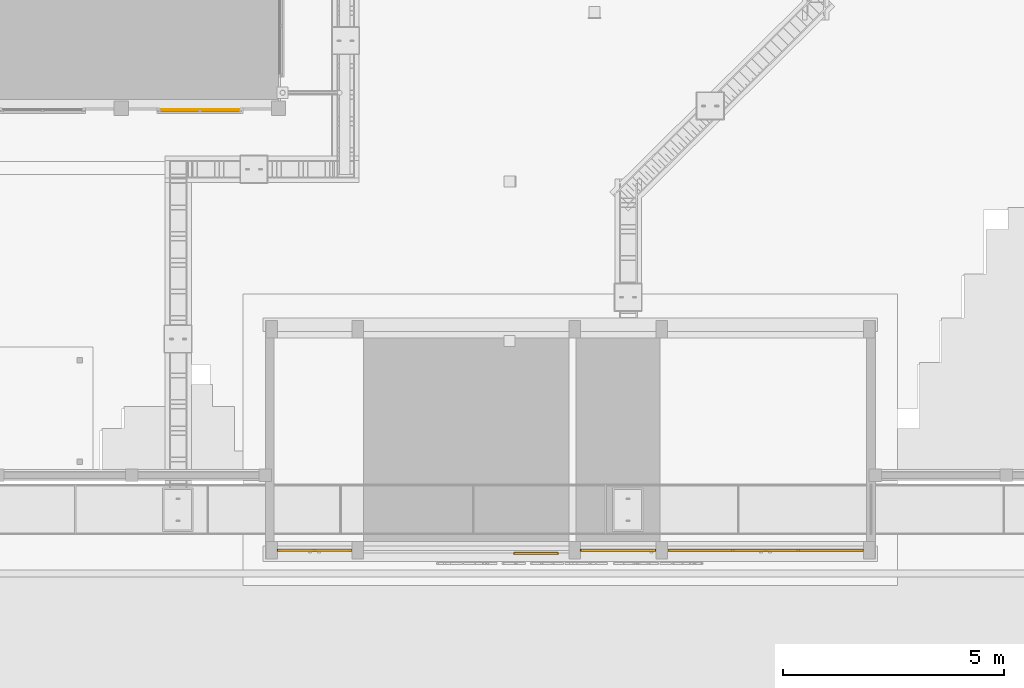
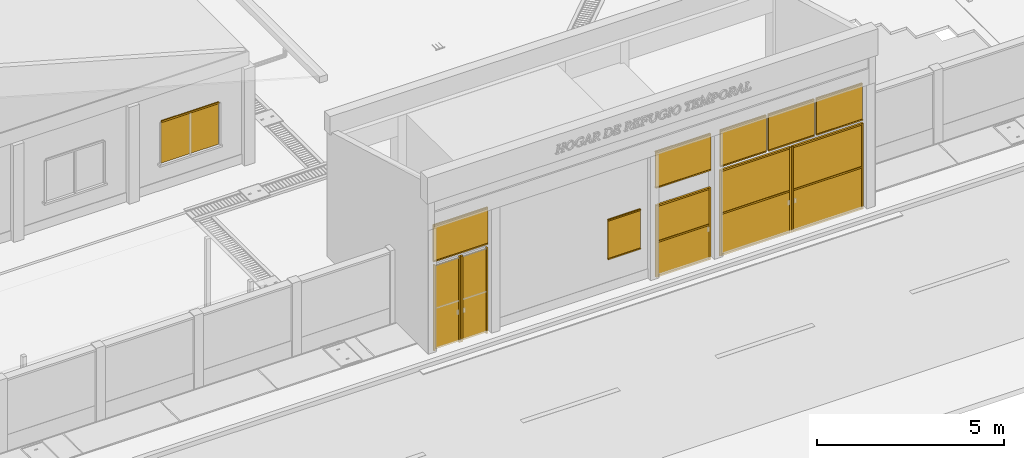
# One storey, part 37 of 151: 24 doors, 20 windows.
"""IFC2X3 building model written with IfcOpenShell, lengths in metres."""

import ifcopenshell
import ifcopenshell.guid

model = None  # the IFC model being written
_history = None  # IfcOwnerHistory: only IFC2X3 demands one
_inside = {}  # id of a spatial element -> (the spatial element, [elements in it])
_under = {}  # id of a project, library or spatial element -> (it, [spatial elements below it])
_declared = {}  # id of a project -> (the project, [libraries it declares])
_typed = {}  # id of a type object -> (the type object, [elements of that type])
_made_of = {}  # id of a material, layer set ... -> (it, [elements and type objects made of it])


def new_model(schema):
    """Start an empty IFC model of exactly this schema.

    Asked for "IFC4X3", IfcOpenShell would pick the latest addendum, in which some entities
    have other attributes; the version numbers below select the first issue.
    IFC2X3 requires an IfcOwnerHistory on every rooted entity: one is made here for all.
    """
    global model, _history
    if schema == "IFC4X3":
        model = ifcopenshell.file(schema_version=(4, 3, 0, 0))
    else:
        model = ifcopenshell.file(schema=schema)
    _inside.clear()
    _under.clear()
    _declared.clear()
    _typed.clear()
    _made_of.clear()
    _history = None
    if model.schema == "IFC2X3":
        org = make("IfcOrganization", Name="unknown")
        user = make(
            "IfcPersonAndOrganization",
            ThePerson=make("IfcPerson", FamilyName="unknown"),
            TheOrganization=org,
        )
        app = make(
            "IfcApplication",
            ApplicationDeveloper=org,
            Version="unknown",
            ApplicationFullName="unknown",
            ApplicationIdentifier="unknown",
        )
        _history = make(
            "IfcOwnerHistory",
            OwningUser=user,
            OwningApplication=app,
            ChangeAction="ADDED",
            CreationDate=0,
        )
    return model


def make(cls, **values):
    """One entity of the class cls with the attributes given. An attribute that is None is left unset."""
    return model.create_entity(
        cls, **{name: value for name, value in values.items() if value is not None}
    )


def rooted(cls, **values):
    """An entity with a GlobalId (a new one), such as an element, a storey or a relation."""
    return make(cls, GlobalId=ifcopenshell.guid.new(), OwnerHistory=_history, **values)


def si_unit(unit_type, name, prefix=None):
    """IfcSIUnit, for example si_unit("LENGTHUNIT", "METRE", prefix="MILLI")."""
    return make("IfcSIUnit", UnitType=unit_type, Prefix=prefix, Name=name)


def assignment(units):
    """IfcUnitAssignment: the units of a project."""
    return None if units is None else make("IfcUnitAssignment", Units=units)


def point(xyz):
    """IfcCartesianPoint."""
    return None if xyz is None else make("IfcCartesianPoint", Coordinates=xyz)


def direction(xyz):
    """IfcDirection."""
    return None if xyz is None else make("IfcDirection", DirectionRatios=xyz)


def frame(location, z_axis=None, x_axis=None):
    """IfcAxis2Placement3D, a coordinate frame: its origin and axes. An axis left out is left unset."""
    return make(
        "IfcAxis2Placement3D",
        Location=point(location),
        Axis=direction(z_axis),
        RefDirection=direction(x_axis),
    )


def origin():
    """The frame at (0, 0, 0) with its axes left unset."""
    return frame((0.0, 0.0, 0.0))


def origin_with_axes():
    """The frame at (0, 0, 0) with the z axis (0, 0, 1) and the x axis (1, 0, 0) written out."""
    return frame((0.0, 0.0, 0.0), z_axis=(0.0, 0.0, 1.0), x_axis=(1.0, 0.0, 0.0))


def place(relative_to, where):
    """IfcLocalPlacement: puts the frame where relative to a parent placement (None: the world)."""
    return make(
        "IfcLocalPlacement", PlacementRelTo=relative_to, RelativePlacement=where
    )


def context(
    kind, dimensions, precision=None, world=None, true_north=None, identifier=None
):
    """IfcGeometricRepresentationContext, for example the 3D "Model" context."""
    return make(
        "IfcGeometricRepresentationContext",
        ContextIdentifier=identifier,
        ContextType=kind,
        CoordinateSpaceDimension=dimensions,
        Precision=precision,
        WorldCoordinateSystem=world,
        TrueNorth=true_north,
    )


def subcontext(parent, identifier, kind, view, scale=None):
    """IfcGeometricRepresentationSubContext, for example "Body" below "Model"."""
    return make(
        "IfcGeometricRepresentationSubContext",
        ContextIdentifier=identifier,
        ContextType=kind,
        ParentContext=parent,
        TargetScale=scale,
        TargetView=view,
    )


def project(units=None, contexts=None):
    """IfcProject with its units and contexts."""
    return rooted(
        "IfcProject",
        Name="project",
        RepresentationContexts=contexts,
        UnitsInContext=assignment(units),
    )


def spatial(cls, under=None, at=None, **own):
    """A site, building, storey or space (cls), placed at a placement, below another one or the project."""
    s = rooted(cls, ObjectPlacement=at, **own)
    if under is not None:
        _under.setdefault(under.id(), (under, []))[1].append(s)
    return s


def faces_of(points, faces, orient=None, outer=None):
    """IfcFace entities. A face is a list of loops; a loop is a list of indices into points, from 0.

    orient and outer hold one flag for each loop. By default every Orientation is true, the
    first loop of a face is its IfcFaceOuterBound and the others are IfcFaceBound.
    """
    made = []
    for i, loops in enumerate(faces):
        bounds = []
        for j, loop in enumerate(loops):
            is_outer = j == 0 if outer is None else outer[i][j]
            bounds.append(
                make(
                    "IfcFaceOuterBound" if is_outer else "IfcFaceBound",
                    Bound=make("IfcPolyLoop", Polygon=[points[k] for k in loop]),
                    Orientation=True if orient is None else orient[i][j],
                )
            )
        made.append(make("IfcFace", Bounds=bounds))
    return made


def faceted_brep(points, faces, orient=None, outer=None, voids=None):
    """IfcFacetedBrep: a solid bounded by flat faces; with voids (closed shells), ...WithVoids."""
    shared = [point(p) for p in points]
    hull = make("IfcClosedShell", CfsFaces=faces_of(shared, faces, orient, outer))
    if voids is None:
        return make("IfcFacetedBrep", Outer=hull)
    return make(
        "IfcFacetedBrepWithVoids",
        Outer=hull,
        Voids=[
            make(cls, CfsFaces=faces_of(shared, fs, o, b)) for cls, fs, o, b in voids
        ],
    )


def shape(context_of_items, identifier, shape_type, items):
    """IfcShapeRepresentation: the items that make up one representation, for example the "Body"."""
    return make(
        "IfcShapeRepresentation",
        ContextOfItems=context_of_items,
        RepresentationIdentifier=identifier,
        RepresentationType=shape_type,
        Items=items,
    )


def made_of(thing, what):
    """Note that an element or type object is made of a material, layer set ...; save() writes the relation."""
    if what is not None:
        _made_of.setdefault(what.id(), (what, []))[1].append(thing)
    return thing


def element(
    cls,
    number,
    at=None,
    inside=None,
    cuts=None,
    type_object=None,
    material=None,
    context=None,
    identifier="Body",
    shape_type=None,
    held_by="IfcProductDefinitionShape",
    body=None,
    shapes=None,
    **own,
):
    """One element of the class cls, such as IfcWall. Its Tag is "e" and its number.

    at: its placement. inside: the storey or other place that contains it. cuts: it is an
    opening in that element (IfcRelVoidsElement). A single representation is given by context,
    identifier, shape_type and body (its items); several are given by shapes. held_by: the class
    of the entity that holds the representations. save() writes the other relations.
    """
    e = rooted(cls, Tag="e%d" % number, ObjectPlacement=at, **own)
    if body is not None:
        shapes = [shape(context, identifier, shape_type, body)]
    if shapes is not None:
        e.Representation = make(held_by, Representations=shapes)
    if inside is not None:
        _inside.setdefault(inside.id(), (inside, []))[1].append(e)
    if cuts is not None:
        rooted(
            "IfcRelVoidsElement", RelatingBuildingElement=cuts, RelatedOpeningElement=e
        )
    if type_object is not None:
        _typed.setdefault(type_object.id(), (type_object, []))[1].append(e)
    return made_of(e, material)


def aggregate(whole, parts):
    """IfcRelAggregates: a whole, such as a stair, and the parts it consists of."""
    return rooted("IfcRelAggregates", RelatingObject=whole, RelatedObjects=parts)


def save(model, path):
    """Write the relations noted so far, then the file.

    IfcRelAggregates (storeys below a building ...), IfcRelContainedInSpatialStructure (elements
    in a storey), IfcRelDefinesByType, IfcRelAssociatesMaterial and IfcRelDeclares: one each for
    every whole, place, type object, material and project.
    """
    for whole, parts in _under.values():
        aggregate(whole, parts)
    for where, things in _inside.values():
        rooted(
            "IfcRelContainedInSpatialStructure",
            RelatedElements=things,
            RelatingStructure=where,
        )
    for kind, things in _typed.values():
        rooted("IfcRelDefinesByType", RelatedObjects=things, RelatingType=kind)
    for what, things in _made_of.values():
        rooted("IfcRelAssociatesMaterial", RelatedObjects=things, RelatingMaterial=what)
    for by, libraries in _declared.values():
        rooted("IfcRelDeclares", RelatingContext=by, RelatedDefinitions=libraries)
    model.write(path)


model = new_model("IFC2X3")

# Units and contexts
model_context = context("Model", 3, precision=1e-05, world=origin_with_axes())
body_context = subcontext(model_context, "Body", "Model", "MODEL_VIEW")
ifc_project = project(units=[si_unit("LENGTHUNIT", "METRE"), si_unit("AREAUNIT", "SQUARE_METRE"), si_unit("VOLUMEUNIT", "CUBIC_METRE"), si_unit("PLANEANGLEUNIT", "RADIAN")], contexts=[model_context])

# Site, building, storey
site_placement = place(None, origin_with_axes())
site = spatial("IfcSite", under=ifc_project, at=site_placement, Name="Predio Los Mangos - Morales, San Martín", CompositionType="ELEMENT")
building_placement = place(site_placement, origin())
building = spatial("IfcBuilding", under=site, at=building_placement, Name="Hogar de Refugio Temporal", CompositionType="ELEMENT")
storey_placement = place(building_placement, origin())
storey = spatial("IfcBuildingStorey", under=building, at=storey_placement, Name="NIVEL 1 (NPT +0.00)", CompositionType="ELEMENT", Elevation=0.0)

# Windows
window_1_placement = place(storey_placement, origin())
element("IfcWindow", 1, at=window_1_placement, inside=storey, Name="E-01_vg4_vid", ObjectType="Ventana", context=body_context, shape_type="Brep", body=[
    faceted_brep([(28.93, 26.26, 1.05), (28.93, 26.28, 1.05), (30.71, 26.28, 1.05), (30.71, 26.26, 1.05), (28.93, 26.26, 2.4), (30.71, 26.26, 2.4), (30.71, 26.28, 2.4), (28.93, 26.28, 2.4)], [[[0, 1, 2, 3]], [[4, 5, 6, 7]], [[0, 3, 5, 4]], [[3, 2, 6, 5]], [[2, 1, 7, 6]], [[1, 0, 4, 7]]]),
])
window_2_placement = place(storey_placement, origin())
element("IfcWindow", 2, at=window_2_placement, inside=storey, Name="E-01_vg4_m", ObjectType="Ventana", context=body_context, shape_type="Brep", body=[
    faceted_brep([(28.93, 26.22, 2.4), (28.93, 26.26, 2.4), (30.71, 26.26, 2.4), (30.71, 26.22, 2.4), (28.93, 26.22, 2.45), (30.71, 26.22, 2.45), (30.71, 26.26, 2.45), (28.93, 26.26, 2.45)], [[[0, 1, 2, 3]], [[4, 5, 6, 7]], [[0, 3, 5, 4]], [[3, 2, 6, 5]], [[2, 1, 7, 6]], [[1, 0, 4, 7]]]),
])

# Doors
door_1_placement = place(storey_placement, origin())
element("IfcDoor", 3, at=door_1_placement, inside=storey, Name="oe01_porton_peatonal_plancha", ObjectType="Puerta / portón", context=body_context, shape_type="Brep", body=[
    faceted_brep([(31.621, 16.285, 0.09), (31.621, 16.315, 0.09), (32.364, 16.315, 0.09), (32.364, 16.285, 0.09), (31.621, 16.285, 2.81), (32.364, 16.285, 2.81), (32.364, 16.315, 2.81), (31.621, 16.315, 2.81)], [[[0, 1, 2, 3]], [[4, 5, 6, 7]], [[0, 3, 5, 4]], [[3, 2, 6, 5]], [[2, 1, 7, 6]], [[1, 0, 4, 7]]]),
])
door_2_placement = place(storey_placement, origin())
element("IfcDoor", 4, at=door_2_placement, inside=storey, Name="oe01_porton_peatonal_m", ObjectType="Puerta / portón", context=body_context, shape_type="Brep", body=[
    faceted_brep([(31.581, 16.27, 0.05), (31.581, 16.33, 0.05), (31.631, 16.33, 0.05), (31.631, 16.27, 0.05), (31.581, 16.27, 2.85), (31.631, 16.27, 2.85), (31.631, 16.33, 2.85), (31.581, 16.33, 2.85)], [[[0, 1, 2, 3]], [[4, 5, 6, 7]], [[0, 3, 5, 4]], [[3, 2, 6, 5]], [[2, 1, 7, 6]], [[1, 0, 4, 7]]]),
])
door_3_placement = place(storey_placement, origin())
element("IfcDoor", 5, at=door_3_placement, inside=storey, Name="oe01_porton_peatonal_m", ObjectType="Puerta / portón", context=body_context, shape_type="Brep", body=[
    faceted_brep([(32.354, 16.27, 0.05), (32.354, 16.33, 0.05), (32.404, 16.33, 0.05), (32.404, 16.27, 0.05), (32.354, 16.27, 2.85), (32.404, 16.27, 2.85), (32.404, 16.33, 2.85), (32.354, 16.33, 2.85)], [[[0, 1, 2, 3]], [[4, 5, 6, 7]], [[0, 3, 5, 4]], [[3, 2, 6, 5]], [[2, 1, 7, 6]], [[1, 0, 4, 7]]]),
])
door_4_placement = place(storey_placement, origin())
element("IfcDoor", 6, at=door_4_placement, inside=storey, Name="oe01_porton_peatonal_plancha", ObjectType="Puerta / portón", context=body_context, shape_type="Brep", body=[
    faceted_brep([(32.464, 16.285, 0.09), (32.464, 16.315, 0.09), (33.2071, 16.315, 0.09), (33.2071, 16.285, 0.09), (32.464, 16.285, 2.81), (33.2071, 16.285, 2.81), (33.2071, 16.315, 2.81), (32.464, 16.315, 2.81)], [[[0, 1, 2, 3]], [[4, 5, 6, 7]], [[0, 3, 5, 4]], [[3, 2, 6, 5]], [[2, 1, 7, 6]], [[1, 0, 4, 7]]]),
])
door_5_placement = place(storey_placement, origin())
element("IfcDoor", 7, at=door_5_placement, inside=storey, Name="oe01_porton_peatonal_m", ObjectType="Puerta / portón", context=body_context, shape_type="Brep", body=[
    faceted_brep([(32.424, 16.27, 0.05), (32.424, 16.33, 0.05), (32.474, 16.33, 0.05), (32.474, 16.27, 0.05), (32.424, 16.27, 2.85), (32.474, 16.27, 2.85), (32.474, 16.33, 2.85), (32.424, 16.33, 2.85)], [[[0, 1, 2, 3]], [[4, 5, 6, 7]], [[0, 3, 5, 4]], [[3, 2, 6, 5]], [[2, 1, 7, 6]], [[1, 0, 4, 7]]]),
])
door_6_placement = place(storey_placement, origin())
element("IfcDoor", 8, at=door_6_placement, inside=storey, Name="oe01_porton_peatonal_m", ObjectType="Puerta / portón", context=body_context, shape_type="Brep", body=[
    faceted_brep([(33.1971, 16.27, 0.05), (33.1971, 16.33, 0.05), (33.2471, 16.33, 0.05), (33.2471, 16.27, 0.05), (33.1971, 16.27, 2.85), (33.2471, 16.27, 2.85), (33.2471, 16.33, 2.85), (33.1971, 16.33, 2.85)], [[[0, 1, 2, 3]], [[4, 5, 6, 7]], [[0, 3, 5, 4]], [[3, 2, 6, 5]], [[2, 1, 7, 6]], [[1, 0, 4, 7]]]),
])

# Windows
window_3_placement = place(storey_placement, origin())
element("IfcWindow", 9, at=window_3_placement, inside=storey, Name="oe01_celosia1", ObjectType="Ventana / paño metálico", context=body_context, shape_type="Brep", body=[
    faceted_brep([(31.571, 16.28, 2.95), (31.571, 16.32, 2.95), (33.2571, 16.32, 2.95), (33.2571, 16.28, 2.95), (31.571, 16.28, 4.15), (33.2571, 16.28, 4.15), (33.2571, 16.32, 4.15), (31.571, 16.32, 4.15)], [[[0, 1, 2, 3]], [[4, 5, 6, 7]], [[0, 3, 5, 4]], [[3, 2, 6, 5]], [[2, 1, 7, 6]], [[1, 0, 4, 7]]]),
])
window_4_placement = place(storey_placement, origin())
element("IfcWindow", 10, at=window_4_placement, inside=storey, Name="oe01_celosia1_marco", ObjectType="Ventana / paño metálico", context=body_context, shape_type="Brep", body=[
    faceted_brep([(31.571, 16.27, 2.95), (31.571, 16.33, 2.95), (33.2571, 16.33, 2.95), (33.2571, 16.27, 2.95), (31.571, 16.27, 2.99), (33.2571, 16.27, 2.99), (33.2571, 16.33, 2.99), (31.571, 16.33, 2.99)], [[[0, 1, 2, 3]], [[4, 5, 6, 7]], [[0, 3, 5, 4]], [[3, 2, 6, 5]], [[2, 1, 7, 6]], [[1, 0, 4, 7]]]),
])
window_5_placement = place(storey_placement, origin())
element("IfcWindow", 11, at=window_5_placement, inside=storey, Name="oe01_celosia1_marco", ObjectType="Ventana / paño metálico", context=body_context, shape_type="Brep", body=[
    faceted_brep([(31.571, 16.27, 4.11), (31.571, 16.33, 4.11), (33.2571, 16.33, 4.11), (33.2571, 16.27, 4.11), (31.571, 16.27, 4.15), (33.2571, 16.27, 4.15), (33.2571, 16.33, 4.15), (31.571, 16.33, 4.15)], [[[0, 1, 2, 3]], [[4, 5, 6, 7]], [[0, 3, 5, 4]], [[3, 2, 6, 5]], [[2, 1, 7, 6]], [[1, 0, 4, 7]]]),
])
window_6_placement = place(storey_placement, origin())
element("IfcWindow", 12, at=window_6_placement, inside=storey, Name="oe01_ventana", ObjectType="Ventana / paño metálico", context=body_context, shape_type="Brep", body=[
    faceted_brep([(36.9204, 16.21, 1.2), (36.9204, 16.25, 1.2), (37.924, 16.25, 1.2), (37.924, 16.21, 1.2), (36.9204, 16.21, 2.5), (37.924, 16.21, 2.5), (37.924, 16.25, 2.5), (36.9204, 16.25, 2.5)], [[[0, 1, 2, 3]], [[4, 5, 6, 7]], [[0, 3, 5, 4]], [[3, 2, 6, 5]], [[2, 1, 7, 6]], [[1, 0, 4, 7]]]),
])
window_7_placement = place(storey_placement, origin())
element("IfcWindow", 13, at=window_7_placement, inside=storey, Name="oe01_ventana_marco", ObjectType="Ventana / paño metálico", context=body_context, shape_type="Brep", body=[
    faceted_brep([(36.9204, 16.2, 1.2), (36.9204, 16.26, 1.2), (37.924, 16.26, 1.2), (37.924, 16.2, 1.2), (36.9204, 16.2, 1.24), (37.924, 16.2, 1.24), (37.924, 16.26, 1.24), (36.9204, 16.26, 1.24)], [[[0, 1, 2, 3]], [[4, 5, 6, 7]], [[0, 3, 5, 4]], [[3, 2, 6, 5]], [[2, 1, 7, 6]], [[1, 0, 4, 7]]]),
])
window_8_placement = place(storey_placement, origin())
element("IfcWindow", 14, at=window_8_placement, inside=storey, Name="oe01_ventana_marco", ObjectType="Ventana / paño metálico", context=body_context, shape_type="Brep", body=[
    faceted_brep([(36.9204, 16.2, 2.46), (36.9204, 16.26, 2.46), (37.924, 16.26, 2.46), (37.924, 16.2, 2.46), (36.9204, 16.2, 2.5), (37.924, 16.2, 2.5), (37.924, 16.26, 2.5), (36.9204, 16.26, 2.5)], [[[0, 1, 2, 3]], [[4, 5, 6, 7]], [[0, 3, 5, 4]], [[3, 2, 6, 5]], [[2, 1, 7, 6]], [[1, 0, 4, 7]]]),
])

# Doors
door_7_placement = place(storey_placement, origin())
element("IfcDoor", 15, at=door_7_placement, inside=storey, Name="oe01_puerta_plancha", ObjectType="Puerta / portón", context=body_context, shape_type="Brep", body=[
    faceted_brep([(38.4758, 16.285, 0.09), (38.4758, 16.315, 0.09), (40.082, 16.315, 0.09), (40.082, 16.285, 0.09), (38.4758, 16.285, 2.36), (40.082, 16.285, 2.36), (40.082, 16.315, 2.36), (38.4758, 16.315, 2.36)], [[[0, 1, 2, 3]], [[4, 5, 6, 7]], [[0, 3, 5, 4]], [[3, 2, 6, 5]], [[2, 1, 7, 6]], [[1, 0, 4, 7]]]),
])
door_8_placement = place(storey_placement, origin())
element("IfcDoor", 16, at=door_8_placement, inside=storey, Name="oe01_puerta_m", ObjectType="Puerta / portón", context=body_context, shape_type="Brep", body=[
    faceted_brep([(38.4358, 16.27, 0.05), (38.4358, 16.33, 0.05), (40.122, 16.33, 0.05), (40.122, 16.27, 0.05), (38.4358, 16.27, 0.1), (40.122, 16.27, 0.1), (40.122, 16.33, 0.1), (38.4358, 16.33, 0.1)], [[[0, 1, 2, 3]], [[4, 5, 6, 7]], [[0, 3, 5, 4]], [[3, 2, 6, 5]], [[2, 1, 7, 6]], [[1, 0, 4, 7]]]),
])
door_9_placement = place(storey_placement, origin())
element("IfcDoor", 17, at=door_9_placement, inside=storey, Name="oe01_puerta_m", ObjectType="Puerta / portón", context=body_context, shape_type="Brep", body=[
    faceted_brep([(38.4358, 16.27, 2.35), (38.4358, 16.33, 2.35), (40.122, 16.33, 2.35), (40.122, 16.27, 2.35), (38.4358, 16.27, 2.4), (40.122, 16.27, 2.4), (40.122, 16.33, 2.4), (38.4358, 16.33, 2.4)], [[[0, 1, 2, 3]], [[4, 5, 6, 7]], [[0, 3, 5, 4]], [[3, 2, 6, 5]], [[2, 1, 7, 6]], [[1, 0, 4, 7]]]),
])
door_10_placement = place(storey_placement, origin())
element("IfcDoor", 18, at=door_10_placement, inside=storey, Name="oe01_puerta_m", ObjectType="Puerta / portón", context=body_context, shape_type="Brep", body=[
    faceted_brep([(38.4358, 16.27, 0.05), (38.4358, 16.33, 0.05), (38.4858, 16.33, 0.05), (38.4858, 16.27, 0.05), (38.4358, 16.27, 2.4), (38.4858, 16.27, 2.4), (38.4858, 16.33, 2.4), (38.4358, 16.33, 2.4)], [[[0, 1, 2, 3]], [[4, 5, 6, 7]], [[0, 3, 5, 4]], [[3, 2, 6, 5]], [[2, 1, 7, 6]], [[1, 0, 4, 7]]]),
])
door_11_placement = place(storey_placement, origin())
element("IfcDoor", 19, at=door_11_placement, inside=storey, Name="oe01_puerta_m", ObjectType="Puerta / portón", context=body_context, shape_type="Brep", body=[
    faceted_brep([(40.072, 16.27, 0.05), (40.072, 16.33, 0.05), (40.122, 16.33, 0.05), (40.122, 16.27, 0.05), (40.072, 16.27, 2.4), (40.122, 16.27, 2.4), (40.122, 16.33, 2.4), (40.072, 16.33, 2.4)], [[[0, 1, 2, 3]], [[4, 5, 6, 7]], [[0, 3, 5, 4]], [[3, 2, 6, 5]], [[2, 1, 7, 6]], [[1, 0, 4, 7]]]),
])
door_12_placement = place(storey_placement, origin())
element("IfcDoor", 20, at=door_12_placement, inside=storey, Name="oe01_puerta_m", ObjectType="Puerta / portón", context=body_context, shape_type="Brep", body=[
    faceted_brep([(38.4358, 16.27, 1.175), (38.4358, 16.33, 1.175), (40.122, 16.33, 1.175), (40.122, 16.27, 1.175), (38.4358, 16.27, 1.225), (40.122, 16.27, 1.225), (40.122, 16.33, 1.225), (38.4358, 16.33, 1.225)], [[[0, 1, 2, 3]], [[4, 5, 6, 7]], [[0, 3, 5, 4]], [[3, 2, 6, 5]], [[2, 1, 7, 6]], [[1, 0, 4, 7]]]),
])

# Windows
window_9_placement = place(storey_placement, origin())
element("IfcWindow", 21, at=window_9_placement, inside=storey, Name="oe01_celosia3", ObjectType="Ventana / paño metálico", context=body_context, shape_type="Brep", body=[
    faceted_brep([(38.4258, 16.28, 2.95), (38.4258, 16.32, 2.95), (40.132, 16.32, 2.95), (40.132, 16.28, 2.95), (38.4258, 16.28, 4.15), (40.132, 16.28, 4.15), (40.132, 16.32, 4.15), (38.4258, 16.32, 4.15)], [[[0, 1, 2, 3]], [[4, 5, 6, 7]], [[0, 3, 5, 4]], [[3, 2, 6, 5]], [[2, 1, 7, 6]], [[1, 0, 4, 7]]]),
])
window_10_placement = place(storey_placement, origin())
element("IfcWindow", 22, at=window_10_placement, inside=storey, Name="oe01_celosia3_marco", ObjectType="Ventana / paño metálico", context=body_context, shape_type="Brep", body=[
    faceted_brep([(38.4258, 16.27, 2.95), (38.4258, 16.33, 2.95), (40.132, 16.33, 2.95), (40.132, 16.27, 2.95), (38.4258, 16.27, 2.99), (40.132, 16.27, 2.99), (40.132, 16.33, 2.99), (38.4258, 16.33, 2.99)], [[[0, 1, 2, 3]], [[4, 5, 6, 7]], [[0, 3, 5, 4]], [[3, 2, 6, 5]], [[2, 1, 7, 6]], [[1, 0, 4, 7]]]),
])
window_11_placement = place(storey_placement, origin())
element("IfcWindow", 23, at=window_11_placement, inside=storey, Name="oe01_celosia3_marco", ObjectType="Ventana / paño metálico", context=body_context, shape_type="Brep", body=[
    faceted_brep([(38.4258, 16.27, 4.11), (38.4258, 16.33, 4.11), (40.132, 16.33, 4.11), (40.132, 16.27, 4.11), (38.4258, 16.27, 4.15), (40.132, 16.27, 4.15), (40.132, 16.33, 4.15), (38.4258, 16.33, 4.15)], [[[0, 1, 2, 3]], [[4, 5, 6, 7]], [[0, 3, 5, 4]], [[3, 2, 6, 5]], [[2, 1, 7, 6]], [[1, 0, 4, 7]]]),
])

# Doors
door_13_placement = place(storey_placement, origin())
element("IfcDoor", 24, at=door_13_placement, inside=storey, Name="oe01_porton_vehicular_plancha", ObjectType="Puerta / portón", context=body_context, shape_type="Brep", body=[
    faceted_brep([(40.4429, 16.285, 0.09), (40.4429, 16.315, 0.09), (42.566, 16.315, 0.09), (42.566, 16.285, 0.09), (40.4429, 16.285, 2.81), (42.566, 16.285, 2.81), (42.566, 16.315, 2.81), (40.4429, 16.315, 2.81)], [[[0, 1, 2, 3]], [[4, 5, 6, 7]], [[0, 3, 5, 4]], [[3, 2, 6, 5]], [[2, 1, 7, 6]], [[1, 0, 4, 7]]]),
])
door_14_placement = place(storey_placement, origin())
element("IfcDoor", 25, at=door_14_placement, inside=storey, Name="oe01_porton_vehicular_m", ObjectType="Puerta / portón", context=body_context, shape_type="Brep", body=[
    faceted_brep([(40.4029, 16.27, 0.05), (40.4029, 16.33, 0.05), (42.606, 16.33, 0.05), (42.606, 16.27, 0.05), (40.4029, 16.27, 0.1), (42.606, 16.27, 0.1), (42.606, 16.33, 0.1), (40.4029, 16.33, 0.1)], [[[0, 1, 2, 3]], [[4, 5, 6, 7]], [[0, 3, 5, 4]], [[3, 2, 6, 5]], [[2, 1, 7, 6]], [[1, 0, 4, 7]]]),
])
door_15_placement = place(storey_placement, origin())
element("IfcDoor", 26, at=door_15_placement, inside=storey, Name="oe01_porton_vehicular_m", ObjectType="Puerta / portón", context=body_context, shape_type="Brep", body=[
    faceted_brep([(40.4029, 16.27, 2.8), (40.4029, 16.33, 2.8), (42.606, 16.33, 2.8), (42.606, 16.27, 2.8), (40.4029, 16.27, 2.85), (42.606, 16.27, 2.85), (42.606, 16.33, 2.85), (40.4029, 16.33, 2.85)], [[[0, 1, 2, 3]], [[4, 5, 6, 7]], [[0, 3, 5, 4]], [[3, 2, 6, 5]], [[2, 1, 7, 6]], [[1, 0, 4, 7]]]),
])
door_16_placement = place(storey_placement, origin())
element("IfcDoor", 27, at=door_16_placement, inside=storey, Name="oe01_porton_vehicular_m", ObjectType="Puerta / portón", context=body_context, shape_type="Brep", body=[
    faceted_brep([(40.4029, 16.27, 0.05), (40.4029, 16.33, 0.05), (40.4529, 16.33, 0.05), (40.4529, 16.27, 0.05), (40.4029, 16.27, 2.85), (40.4529, 16.27, 2.85), (40.4529, 16.33, 2.85), (40.4029, 16.33, 2.85)], [[[0, 1, 2, 3]], [[4, 5, 6, 7]], [[0, 3, 5, 4]], [[3, 2, 6, 5]], [[2, 1, 7, 6]], [[1, 0, 4, 7]]]),
])
door_17_placement = place(storey_placement, origin())
element("IfcDoor", 28, at=door_17_placement, inside=storey, Name="oe01_porton_vehicular_m", ObjectType="Puerta / portón", context=body_context, shape_type="Brep", body=[
    faceted_brep([(42.556, 16.27, 0.05), (42.556, 16.33, 0.05), (42.606, 16.33, 0.05), (42.606, 16.27, 0.05), (42.556, 16.27, 2.85), (42.606, 16.27, 2.85), (42.606, 16.33, 2.85), (42.556, 16.33, 2.85)], [[[0, 1, 2, 3]], [[4, 5, 6, 7]], [[0, 3, 5, 4]], [[3, 2, 6, 5]], [[2, 1, 7, 6]], [[1, 0, 4, 7]]]),
])
door_18_placement = place(storey_placement, origin())
element("IfcDoor", 29, at=door_18_placement, inside=storey, Name="oe01_porton_vehicular_m", ObjectType="Puerta / portón", context=body_context, shape_type="Brep", body=[
    faceted_brep([(40.4029, 16.27, 1.4), (40.4029, 16.33, 1.4), (42.606, 16.33, 1.4), (42.606, 16.27, 1.4), (40.4029, 16.27, 1.45), (42.606, 16.27, 1.45), (42.606, 16.33, 1.45), (40.4029, 16.33, 1.45)], [[[0, 1, 2, 3]], [[4, 5, 6, 7]], [[0, 3, 5, 4]], [[3, 2, 6, 5]], [[2, 1, 7, 6]], [[1, 0, 4, 7]]]),
])
door_19_placement = place(storey_placement, origin())
element("IfcDoor", 30, at=door_19_placement, inside=storey, Name="oe01_porton_vehicular_plancha", ObjectType="Puerta / portón", context=body_context, shape_type="Brep", body=[
    faceted_brep([(42.666, 16.285, 0.09), (42.666, 16.315, 0.09), (44.7891, 16.315, 0.09), (44.7891, 16.285, 0.09), (42.666, 16.285, 2.81), (44.7891, 16.285, 2.81), (44.7891, 16.315, 2.81), (42.666, 16.315, 2.81)], [[[0, 1, 2, 3]], [[4, 5, 6, 7]], [[0, 3, 5, 4]], [[3, 2, 6, 5]], [[2, 1, 7, 6]], [[1, 0, 4, 7]]]),
])
door_20_placement = place(storey_placement, origin())
element("IfcDoor", 31, at=door_20_placement, inside=storey, Name="oe01_porton_vehicular_m", ObjectType="Puerta / portón", context=body_context, shape_type="Brep", body=[
    faceted_brep([(42.626, 16.27, 0.05), (42.626, 16.33, 0.05), (44.8291, 16.33, 0.05), (44.8291, 16.27, 0.05), (42.626, 16.27, 0.1), (44.8291, 16.27, 0.1), (44.8291, 16.33, 0.1), (42.626, 16.33, 0.1)], [[[0, 1, 2, 3]], [[4, 5, 6, 7]], [[0, 3, 5, 4]], [[3, 2, 6, 5]], [[2, 1, 7, 6]], [[1, 0, 4, 7]]]),
])
door_21_placement = place(storey_placement, origin())
element("IfcDoor", 32, at=door_21_placement, inside=storey, Name="oe01_porton_vehicular_m", ObjectType="Puerta / portón", context=body_context, shape_type="Brep", body=[
    faceted_brep([(42.626, 16.27, 2.8), (42.626, 16.33, 2.8), (44.8291, 16.33, 2.8), (44.8291, 16.27, 2.8), (42.626, 16.27, 2.85), (44.8291, 16.27, 2.85), (44.8291, 16.33, 2.85), (42.626, 16.33, 2.85)], [[[0, 1, 2, 3]], [[4, 5, 6, 7]], [[0, 3, 5, 4]], [[3, 2, 6, 5]], [[2, 1, 7, 6]], [[1, 0, 4, 7]]]),
])
door_22_placement = place(storey_placement, origin())
element("IfcDoor", 33, at=door_22_placement, inside=storey, Name="oe01_porton_vehicular_m", ObjectType="Puerta / portón", context=body_context, shape_type="Brep", body=[
    faceted_brep([(42.626, 16.27, 0.05), (42.626, 16.33, 0.05), (42.676, 16.33, 0.05), (42.676, 16.27, 0.05), (42.626, 16.27, 2.85), (42.676, 16.27, 2.85), (42.676, 16.33, 2.85), (42.626, 16.33, 2.85)], [[[0, 1, 2, 3]], [[4, 5, 6, 7]], [[0, 3, 5, 4]], [[3, 2, 6, 5]], [[2, 1, 7, 6]], [[1, 0, 4, 7]]]),
])
door_23_placement = place(storey_placement, origin())
element("IfcDoor", 34, at=door_23_placement, inside=storey, Name="oe01_porton_vehicular_m", ObjectType="Puerta / portón", context=body_context, shape_type="Brep", body=[
    faceted_brep([(44.7791, 16.27, 0.05), (44.7791, 16.33, 0.05), (44.8291, 16.33, 0.05), (44.8291, 16.27, 0.05), (44.7791, 16.27, 2.85), (44.8291, 16.27, 2.85), (44.8291, 16.33, 2.85), (44.7791, 16.33, 2.85)], [[[0, 1, 2, 3]], [[4, 5, 6, 7]], [[0, 3, 5, 4]], [[3, 2, 6, 5]], [[2, 1, 7, 6]], [[1, 0, 4, 7]]]),
])
door_24_placement = place(storey_placement, origin())
element("IfcDoor", 35, at=door_24_placement, inside=storey, Name="oe01_porton_vehicular_m", ObjectType="Puerta / portón", context=body_context, shape_type="Brep", body=[
    faceted_brep([(42.626, 16.27, 1.4), (42.626, 16.33, 1.4), (44.8291, 16.33, 1.4), (44.8291, 16.27, 1.4), (42.626, 16.27, 1.45), (44.8291, 16.27, 1.45), (44.8291, 16.33, 1.45), (42.626, 16.33, 1.45)], [[[0, 1, 2, 3]], [[4, 5, 6, 7]], [[0, 3, 5, 4]], [[3, 2, 6, 5]], [[2, 1, 7, 6]], [[1, 0, 4, 7]]]),
])

# Windows
window_12_placement = place(storey_placement, origin())
element("IfcWindow", 36, at=window_12_placement, inside=storey, Name="oe01_celosia4", ObjectType="Ventana / paño metálico", context=body_context, shape_type="Brep", body=[
    faceted_brep([(40.4229, 16.28, 2.95), (40.4229, 16.32, 2.95), (41.845, 16.32, 2.95), (41.845, 16.28, 2.95), (40.4229, 16.28, 4.15), (41.845, 16.28, 4.15), (41.845, 16.32, 4.15), (40.4229, 16.32, 4.15)], [[[0, 1, 2, 3]], [[4, 5, 6, 7]], [[0, 3, 5, 4]], [[3, 2, 6, 5]], [[2, 1, 7, 6]], [[1, 0, 4, 7]]]),
])
window_13_placement = place(storey_placement, origin())
element("IfcWindow", 37, at=window_13_placement, inside=storey, Name="oe01_celosia4_marco", ObjectType="Ventana / paño metálico", context=body_context, shape_type="Brep", body=[
    faceted_brep([(40.4229, 16.27, 2.95), (40.4229, 16.33, 2.95), (41.845, 16.33, 2.95), (41.845, 16.27, 2.95), (40.4229, 16.27, 2.99), (41.845, 16.27, 2.99), (41.845, 16.33, 2.99), (40.4229, 16.33, 2.99)], [[[0, 1, 2, 3]], [[4, 5, 6, 7]], [[0, 3, 5, 4]], [[3, 2, 6, 5]], [[2, 1, 7, 6]], [[1, 0, 4, 7]]]),
])
window_14_placement = place(storey_placement, origin())
element("IfcWindow", 38, at=window_14_placement, inside=storey, Name="oe01_celosia4_marco", ObjectType="Ventana / paño metálico", context=body_context, shape_type="Brep", body=[
    faceted_brep([(40.4229, 16.27, 4.11), (40.4229, 16.33, 4.11), (41.845, 16.33, 4.11), (41.845, 16.27, 4.11), (40.4229, 16.27, 4.15), (41.845, 16.27, 4.15), (41.845, 16.33, 4.15), (40.4229, 16.33, 4.15)], [[[0, 1, 2, 3]], [[4, 5, 6, 7]], [[0, 3, 5, 4]], [[3, 2, 6, 5]], [[2, 1, 7, 6]], [[1, 0, 4, 7]]]),
])
window_15_placement = place(storey_placement, origin())
element("IfcWindow", 39, at=window_15_placement, inside=storey, Name="oe01_celosia4", ObjectType="Ventana / paño metálico", context=body_context, shape_type="Brep", body=[
    faceted_brep([(41.905, 16.28, 2.95), (41.905, 16.32, 2.95), (43.327, 16.32, 2.95), (43.327, 16.28, 2.95), (41.905, 16.28, 4.15), (43.327, 16.28, 4.15), (43.327, 16.32, 4.15), (41.905, 16.32, 4.15)], [[[0, 1, 2, 3]], [[4, 5, 6, 7]], [[0, 3, 5, 4]], [[3, 2, 6, 5]], [[2, 1, 7, 6]], [[1, 0, 4, 7]]]),
])
window_16_placement = place(storey_placement, origin())
element("IfcWindow", 40, at=window_16_placement, inside=storey, Name="oe01_celosia4_marco", ObjectType="Ventana / paño metálico", context=body_context, shape_type="Brep", body=[
    faceted_brep([(41.905, 16.27, 2.95), (41.905, 16.33, 2.95), (43.327, 16.33, 2.95), (43.327, 16.27, 2.95), (41.905, 16.27, 2.99), (43.327, 16.27, 2.99), (43.327, 16.33, 2.99), (41.905, 16.33, 2.99)], [[[0, 1, 2, 3]], [[4, 5, 6, 7]], [[0, 3, 5, 4]], [[3, 2, 6, 5]], [[2, 1, 7, 6]], [[1, 0, 4, 7]]]),
])
window_17_placement = place(storey_placement, origin())
element("IfcWindow", 41, at=window_17_placement, inside=storey, Name="oe01_celosia4_marco", ObjectType="Ventana / paño metálico", context=body_context, shape_type="Brep", body=[
    faceted_brep([(41.905, 16.27, 4.11), (41.905, 16.33, 4.11), (43.327, 16.33, 4.11), (43.327, 16.27, 4.11), (41.905, 16.27, 4.15), (43.327, 16.27, 4.15), (43.327, 16.33, 4.15), (41.905, 16.33, 4.15)], [[[0, 1, 2, 3]], [[4, 5, 6, 7]], [[0, 3, 5, 4]], [[3, 2, 6, 5]], [[2, 1, 7, 6]], [[1, 0, 4, 7]]]),
])
window_18_placement = place(storey_placement, origin())
element("IfcWindow", 42, at=window_18_placement, inside=storey, Name="oe01_celosia4", ObjectType="Ventana / paño metálico", context=body_context, shape_type="Brep", body=[
    faceted_brep([(43.387, 16.28, 2.95), (43.387, 16.32, 2.95), (44.8091, 16.32, 2.95), (44.8091, 16.28, 2.95), (43.387, 16.28, 4.15), (44.8091, 16.28, 4.15), (44.8091, 16.32, 4.15), (43.387, 16.32, 4.15)], [[[0, 1, 2, 3]], [[4, 5, 6, 7]], [[0, 3, 5, 4]], [[3, 2, 6, 5]], [[2, 1, 7, 6]], [[1, 0, 4, 7]]]),
])
window_19_placement = place(storey_placement, origin())
element("IfcWindow", 43, at=window_19_placement, inside=storey, Name="oe01_celosia4_marco", ObjectType="Ventana / paño metálico", context=body_context, shape_type="Brep", body=[
    faceted_brep([(43.387, 16.27, 2.95), (43.387, 16.33, 2.95), (44.8091, 16.33, 2.95), (44.8091, 16.27, 2.95), (43.387, 16.27, 2.99), (44.8091, 16.27, 2.99), (44.8091, 16.33, 2.99), (43.387, 16.33, 2.99)], [[[0, 1, 2, 3]], [[4, 5, 6, 7]], [[0, 3, 5, 4]], [[3, 2, 6, 5]], [[2, 1, 7, 6]], [[1, 0, 4, 7]]]),
])
window_20_placement = place(storey_placement, origin())
element("IfcWindow", 44, at=window_20_placement, inside=storey, Name="oe01_celosia4_marco", ObjectType="Ventana / paño metálico", context=body_context, shape_type="Brep", body=[
    faceted_brep([(43.387, 16.27, 4.11), (43.387, 16.33, 4.11), (44.8091, 16.33, 4.11), (44.8091, 16.27, 4.11), (43.387, 16.27, 4.15), (44.8091, 16.27, 4.15), (44.8091, 16.33, 4.15), (43.387, 16.33, 4.15)], [[[0, 1, 2, 3]], [[4, 5, 6, 7]], [[0, 3, 5, 4]], [[3, 2, 6, 5]], [[2, 1, 7, 6]], [[1, 0, 4, 7]]]),
])

save(model, "model.ifc")
